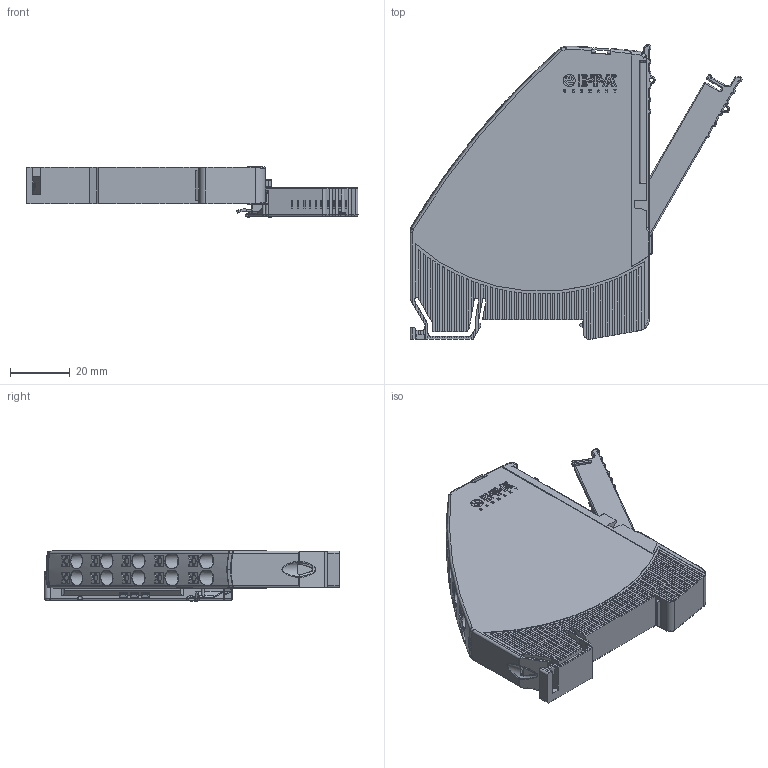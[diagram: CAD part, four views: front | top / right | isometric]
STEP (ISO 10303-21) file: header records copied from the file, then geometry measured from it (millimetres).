
FILE_DESCRIPTION((''),'2;1');
FILE_NAME('T-PM12-T0X-00-GND_ASM','2017-06-08T',('hroth'),(''),'PRO/ENGINEER BY PARAMETRIC TECHNOLOGY CORPORATION, 2014200','PRO/ENGINEER BY PARAMETRIC TECHNOLOGY CORPORATION, 2014200','');
FILE_SCHEMA(('AUTOMOTIVE_DESIGN { 1 0 10303 214 1 1 1 1 }'));
Products named in the file (3): T-PM12-T0X-00-GND_GEH; T-PM12-T00_HEB_GND_1K; T-PM12-T0X-00-GND_ASM
Assembly tree (3 placements, depth 2):
  T-PM12-T0X-00-GND_ASM
    T-PM12-T0X-00-GND_GEH
    T-PM12-T00_HEB_GND_1K  x2
Bounding box: 110.9 x 98.5 x 16.9 mm (x, y, z)
Volume: 71707.2 mm3; surface area: 27643.8 mm2
Topology: 3 solids, 3 shells, 2445 faces, 6804 edges, 4425 vertices
Faces by surface type: plane 1492, cylinder 618, bspline 141, torus 117, extrusion 41, cone 20, sphere 16
Entity records: 86704 total; most frequent: CARTESIAN_POINT 26424, ORIENTED_EDGE 11682, DIRECTION 10393, EDGE_CURVE 5841, VECTOR 4107, LINE 4066, VERTEX_POINT 3835, AXIS2_PLACEMENT_3D 3143
